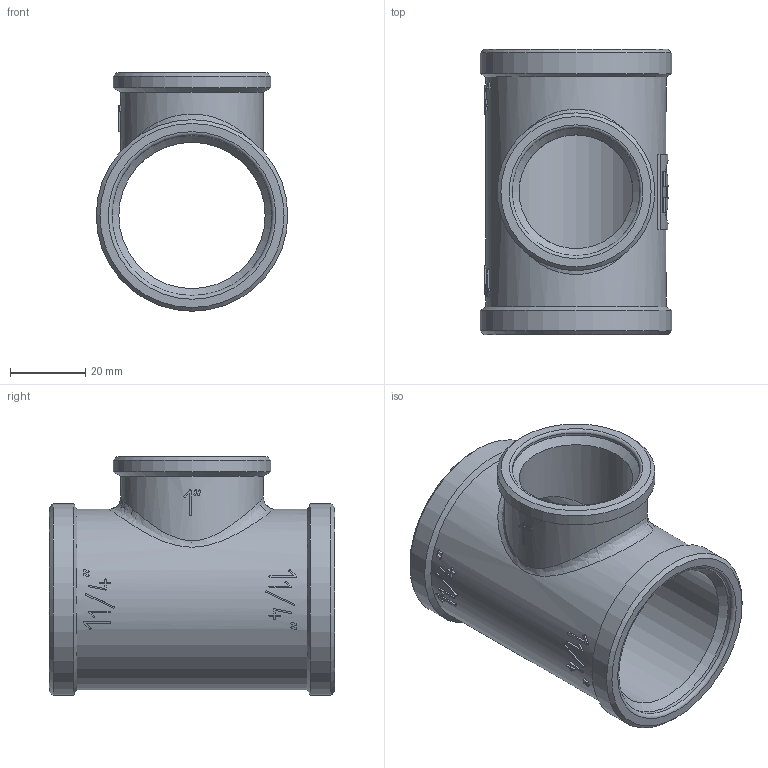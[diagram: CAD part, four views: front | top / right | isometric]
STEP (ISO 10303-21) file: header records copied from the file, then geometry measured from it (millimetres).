
FILE_DESCRIPTION(('STEP AP203'), '1');
FILE_NAME('ÂÐ.752243.012 - VTr.750.N.0706 - Ôèò. ðåçüá. òðîé', '2024-07-15T08:51:39', ('Boss'), (''), 'C3D Converter', 'C3D Toolkit', '');
FILE_SCHEMA(('CONFIG_CONTROL_DESIGN'));
Length unit declared in the file: millimetre
Products named in the file (1): ВР.752243.012
Bounding box: 51 x 76 x 63.5 mm (x, y, z)
Volume: 53177.6 mm3; surface area: 25381.8 mm2
Topology: 1 solids, 1 shells, 290 faces, 798 edges, 527 vertices
Faces by surface type: extrusion 153, plane 95, cylinder 29, cone 9, torus 3, bspline 1
Full cylindrical faces by diameter (mm): 30.292 x1, 34 x1, 38 x1, 38.953 x1, 42 x1, 42.6 x2, 48 x1, 51 x2
Entity records: 12850 total; most frequent: CARTESIAN_POINT 6439, ORIENTED_EDGE 1544, DIRECTION 831, EDGE_CURVE 772, VERTEX_POINT 526, B_SPLINE_CURVE_WITH_KNOTS 463, VECTOR 447, EDGE_LOOP 336
